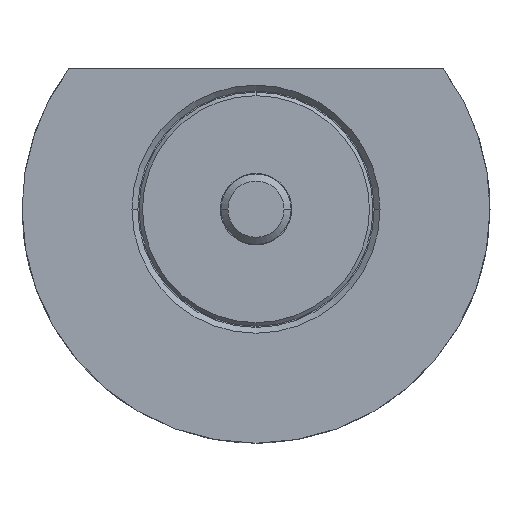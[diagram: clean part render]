
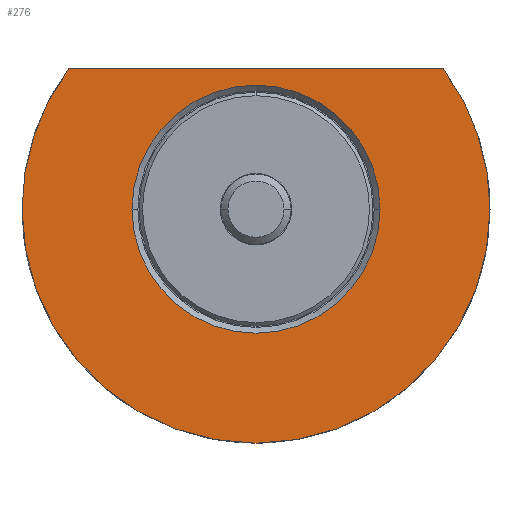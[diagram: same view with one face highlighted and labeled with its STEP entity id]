
A CAD part, front view. The second image highlights one B-rep face of the part: STEP entity #276.
In plain terms, the highlighted planar face has unit normal (0, -1, 0).
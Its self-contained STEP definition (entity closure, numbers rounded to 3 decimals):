
#96 = AXIS2_PLACEMENT_3D ( 'NONE', #1485, #2108, #1262 ) ;
#110 = ORIENTED_EDGE ( 'NONE', *, *, #1853, .F. ) ;
#132 = PLANE ( 'NONE',  #1064 ) ;
#134 = CIRCLE ( 'NONE', #178, 20. ) ;
#157 = ORIENTED_EDGE ( 'NONE', *, *, #268, .T. ) ;
#178 = AXIS2_PLACEMENT_3D ( 'NONE', #457, #1846, #844 ) ;
#240 = CARTESIAN_POINT ( 'NONE',  ( 10.6, -10., 0. ) ) ;
#268 = EDGE_CURVE ( 'NONE', #1226, #2486, #892, .T. ) ;
#276 = ADVANCED_FACE ( 'NONE', ( #686, #1937 ), #132, .T. ) ;
#380 = CARTESIAN_POINT ( 'NONE',  ( 20., -10., 0. ) ) ;
#457 = CARTESIAN_POINT ( 'NONE',  ( 0., -10., 0. ) ) ;
#474 = LINE ( 'NONE', #1502, #1402 ) ;
#487 = DIRECTION ( 'NONE',  ( 1., 0., 0. ) ) ;
#528 = CARTESIAN_POINT ( 'NONE',  ( 0., -10., 0. ) ) ;
#602 = AXIS2_PLACEMENT_3D ( 'NONE', #2432, #2214, #1842 ) ;
#630 = EDGE_LOOP ( 'NONE', ( #1989, #157 ) ) ;
#686 = FACE_BOUND ( 'NONE', #630, .T. ) ;
#694 = CARTESIAN_POINT ( 'NONE',  ( 0., -10., 0. ) ) ;
#700 = DIRECTION ( 'NONE',  ( -1., 0., 0. ) ) ;
#757 = EDGE_CURVE ( 'NONE', #1654, #1030, #134, .T. ) ;
#823 = CARTESIAN_POINT ( 'NONE',  ( -16.001, -10., 11.999 ) ) ;
#827 = CARTESIAN_POINT ( 'NONE',  ( -20., -10., 0. ) ) ;
#844 = DIRECTION ( 'NONE',  ( -1., 0., 0. ) ) ;
#855 = CARTESIAN_POINT ( 'NONE',  ( 16.001, -10., 11.999 ) ) ;
#892 = CIRCLE ( 'NONE', #2587, 10.6 ) ;
#1030 = VERTEX_POINT ( 'NONE', #380 ) ;
#1064 = AXIS2_PLACEMENT_3D ( 'NONE', #1493, #2302, #487 ) ;
#1199 = AXIS2_PLACEMENT_3D ( 'NONE', #694, #2309, #1301 ) ;
#1226 = VERTEX_POINT ( 'NONE', #1227 ) ;
#1227 = CARTESIAN_POINT ( 'NONE',  ( -10.6, -10., 0. ) ) ;
#1262 = DIRECTION ( 'NONE',  ( -1., 0., 0. ) ) ;
#1293 = EDGE_CURVE ( 'NONE', #1654, #2146, #474, .T. ) ;
#1301 = DIRECTION ( 'NONE',  ( -1., 0., 0. ) ) ;
#1353 = ORIENTED_EDGE ( 'NONE', *, *, #1293, .T. ) ;
#1402 = VECTOR ( 'NONE', #2299, 1000. ) ;
#1453 = ORIENTED_EDGE ( 'NONE', *, *, #757, .F. ) ;
#1485 = CARTESIAN_POINT ( 'NONE',  ( 0., -10., 0. ) ) ;
#1493 = CARTESIAN_POINT ( 'NONE',  ( -10.6, -10., 0. ) ) ;
#1502 = CARTESIAN_POINT ( 'NONE',  ( -10.6, -10., 11.999 ) ) ;
#1574 = CIRCLE ( 'NONE', #602, 20. ) ;
#1654 = VERTEX_POINT ( 'NONE', #855 ) ;
#1710 = EDGE_CURVE ( 'NONE', #2486, #1226, #2206, .T. ) ;
#1722 = DIRECTION ( 'NONE',  ( 0., 1., 0. ) ) ;
#1753 = EDGE_CURVE ( 'NONE', #1030, #1904, #2555, .T. ) ;
#1772 = EDGE_LOOP ( 'NONE', ( #1453, #1353, #110, #2453 ) ) ;
#1842 = DIRECTION ( 'NONE',  ( -1., 0., 0. ) ) ;
#1846 = DIRECTION ( 'NONE',  ( 0., 1., 0. ) ) ;
#1853 = EDGE_CURVE ( 'NONE', #1904, #2146, #1574, .T. ) ;
#1904 = VERTEX_POINT ( 'NONE', #827 ) ;
#1937 = FACE_OUTER_BOUND ( 'NONE', #1772, .T. ) ;
#1989 = ORIENTED_EDGE ( 'NONE', *, *, #1710, .T. ) ;
#2108 = DIRECTION ( 'NONE',  ( 0., 1., 0. ) ) ;
#2146 = VERTEX_POINT ( 'NONE', #823 ) ;
#2206 = CIRCLE ( 'NONE', #96, 10.6 ) ;
#2214 = DIRECTION ( 'NONE',  ( 0., 1., 0. ) ) ;
#2299 = DIRECTION ( 'NONE',  ( -1., 0., 0. ) ) ;
#2302 = DIRECTION ( 'NONE',  ( 0., -1., 0. ) ) ;
#2309 = DIRECTION ( 'NONE',  ( 0., 1., 0. ) ) ;
#2432 = CARTESIAN_POINT ( 'NONE',  ( 0., -10., 0. ) ) ;
#2453 = ORIENTED_EDGE ( 'NONE', *, *, #1753, .F. ) ;
#2486 = VERTEX_POINT ( 'NONE', #240 ) ;
#2555 = CIRCLE ( 'NONE', #1199, 20. ) ;
#2587 = AXIS2_PLACEMENT_3D ( 'NONE', #528, #1722, #700 ) ;
